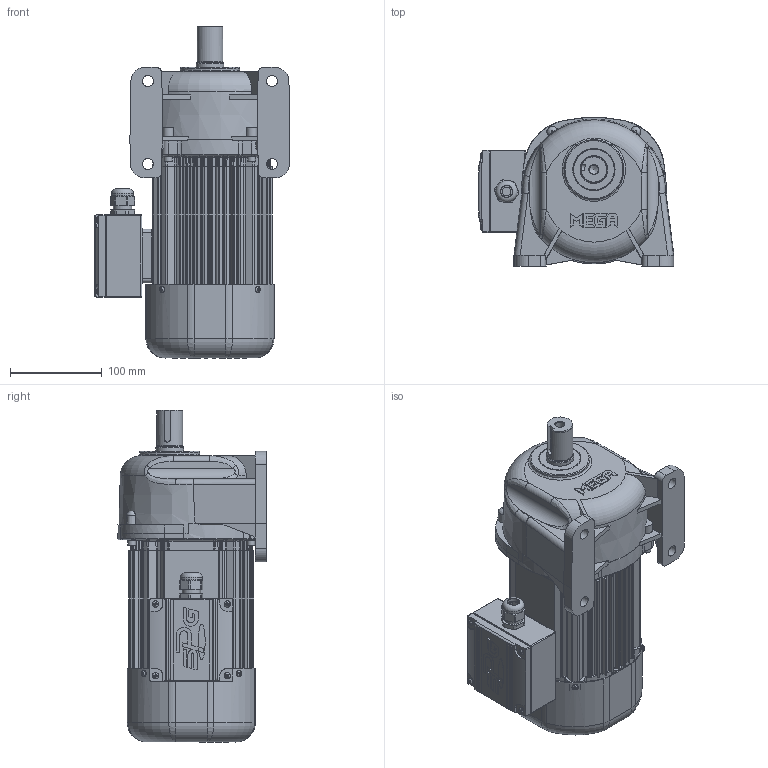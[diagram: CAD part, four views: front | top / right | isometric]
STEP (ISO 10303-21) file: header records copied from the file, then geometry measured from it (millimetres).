
FILE_DESCRIPTION(/* description */ (''),/* implementation_level */ '2;1');
FILE_NAME(/* name */ 'Z:\동력 3D 파일\PML105-(5~100)-MC(D)040[ ]L (마스터).stp',/* time_stamp */ '2021-07-14T17:37:45+09:00',/* author */ ('jaebok'),/* organization */ (''),/* preprocessor_version */ 'ST-DEVELOPER v18.1',/* originating_system */ 'Autodesk Inventor 2022',/* authorisation */ '');
FILE_SCHEMA (('AUTOMOTIVE_DESIGN { 1 0 10303 214 3 1 1 }'));
Length unit declared in the file: millimetre
Products named in the file (1): 부품2
Bounding box: 213 x 161.61 x 361 mm (x, y, z)
Volume: 1872586.6 mm3; surface area: 621091 mm2
Topology: 2 solids, 33 shells, 3301 faces, 8341 edges, 4988 vertices
Faces by surface type: plane 1186, cylinder 947, bspline 642, torus 270, cone 164, sphere 92
Full cylindrical faces by diameter (mm): 1.5 x2, 2 x5, 3 x8, 3.242 x4, 3.25 x1, 3.3 x4, 3.6 x4, 3.8 x3, 4 x25, 4.134 x4, 4.2 x8, 5 x25, 5.5 x4, 5.8 x2, 5.9 x3, 6 x18, 6.4 x1, 6.5 x6, 7 x12, 7.9 x6, 8 x8, 8.5 x5, 8.7 x1, 10 x2, 12 x4, 12.5 x1, 15 x1, 18 x1, 19 x2, 20 x2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
Entity records: 130550 total; most frequent: CARTESIAN_POINT 51864, ORIENTED_EDGE 16180, DIRECTION 15279, EDGE_CURVE 8090, AXIS2_PLACEMENT_3D 6082, VERTEX_POINT 4984, EDGE_LOOP 3571, FACE_OUTER_BOUND 3301
